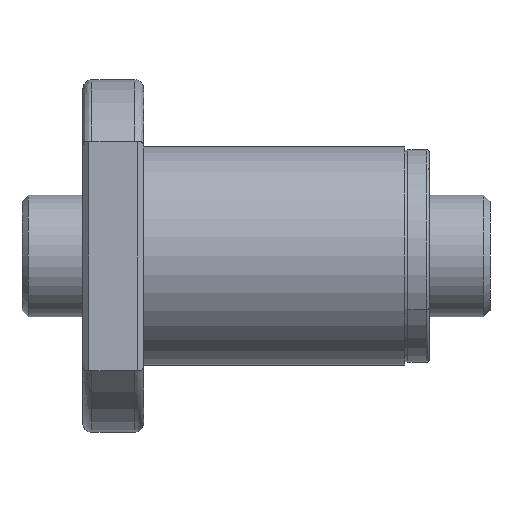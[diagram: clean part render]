
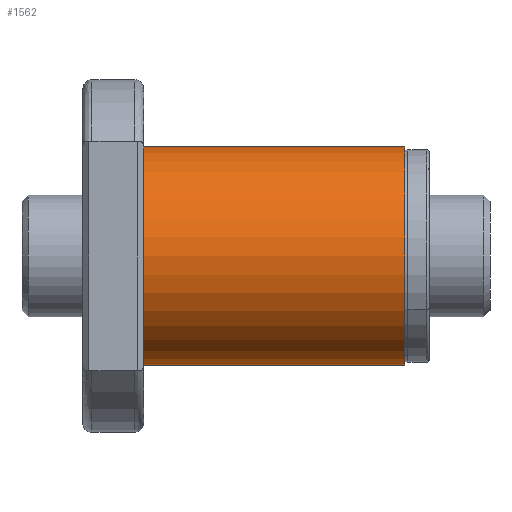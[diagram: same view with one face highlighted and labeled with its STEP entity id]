
A CAD part, front view. The second image highlights one B-rep face of the part: STEP entity #1562.
In plain terms, the highlighted cylindrical face has radius 18 mm (diameter 36 mm), a partial arc.
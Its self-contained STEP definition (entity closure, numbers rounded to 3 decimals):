
#23 = CARTESIAN_POINT ( 'NONE',  ( 0., 0., 0. ) ) ;
#150 = EDGE_LOOP ( 'NONE', ( #6822, #4196, #4551, #2761 ) ) ;
#555 = LINE ( 'NONE', #1677, #633 ) ;
#633 = VECTOR ( 'NONE', #5762, 1000. ) ;
#682 = CARTESIAN_POINT ( 'NONE',  ( 10., 0., 18. ) ) ;
#1096 = EDGE_CURVE ( 'NONE', #1826, #2293, #5287, .T. ) ;
#1144 = CYLINDRICAL_SURFACE ( 'NONE', #4165, 18. ) ;
#1443 = VECTOR ( 'NONE', #7536, 1000. ) ;
#1537 = CARTESIAN_POINT ( 'NONE',  ( 53., 0., -18. ) ) ;
#1562 = ADVANCED_FACE ( 'NONE', ( #7450 ), #1144, .T. ) ;
#1677 = CARTESIAN_POINT ( 'NONE',  ( 0., 0., 18. ) ) ;
#1826 = VERTEX_POINT ( 'NONE', #1537 ) ;
#2223 = VERTEX_POINT ( 'NONE', #7424 ) ;
#2293 = VERTEX_POINT ( 'NONE', #6350 ) ;
#2323 = DIRECTION ( 'NONE',  ( 0., 0., 1. ) ) ;
#2761 = ORIENTED_EDGE ( 'NONE', *, *, #4267, .T. ) ;
#3606 = DIRECTION ( 'NONE',  ( 0., 0., 1. ) ) ;
#3686 = CARTESIAN_POINT ( 'NONE',  ( 53., 0., 0. ) ) ;
#3842 = EDGE_CURVE ( 'NONE', #2293, #4521, #555, .T. ) ;
#3997 = AXIS2_PLACEMENT_3D ( 'NONE', #6807, #5107, #7408 ) ;
#4165 = AXIS2_PLACEMENT_3D ( 'NONE', #23, #5821, #2323 ) ;
#4196 = ORIENTED_EDGE ( 'NONE', *, *, #1096, .T. ) ;
#4267 = EDGE_CURVE ( 'NONE', #4521, #2223, #5741, .T. ) ;
#4521 = VERTEX_POINT ( 'NONE', #682 ) ;
#4551 = ORIENTED_EDGE ( 'NONE', *, *, #3842, .T. ) ;
#5095 = LINE ( 'NONE', #7492, #1443 ) ;
#5107 = DIRECTION ( 'NONE',  ( 1., 0., 0. ) ) ;
#5287 = CIRCLE ( 'NONE', #5529, 18. ) ;
#5302 = EDGE_CURVE ( 'NONE', #1826, #2223, #5095, .T. ) ;
#5529 = AXIS2_PLACEMENT_3D ( 'NONE', #3686, #7199, #3606 ) ;
#5741 = CIRCLE ( 'NONE', #3997, 18. ) ;
#5762 = DIRECTION ( 'NONE',  ( -1., 0., 0. ) ) ;
#5821 = DIRECTION ( 'NONE',  ( -1., 0., 0. ) ) ;
#6350 = CARTESIAN_POINT ( 'NONE',  ( 53., 0., 18. ) ) ;
#6807 = CARTESIAN_POINT ( 'NONE',  ( 10., 0., 0. ) ) ;
#6822 = ORIENTED_EDGE ( 'NONE', *, *, #5302, .F. ) ;
#7199 = DIRECTION ( 'NONE',  ( -1., 0., 0. ) ) ;
#7408 = DIRECTION ( 'NONE',  ( 0., 0., 1. ) ) ;
#7424 = CARTESIAN_POINT ( 'NONE',  ( 10., 0., -18. ) ) ;
#7450 = FACE_OUTER_BOUND ( 'NONE', #150, .T. ) ;
#7492 = CARTESIAN_POINT ( 'NONE',  ( 0., 0., -18. ) ) ;
#7536 = DIRECTION ( 'NONE',  ( -1., 0., 0. ) ) ;
